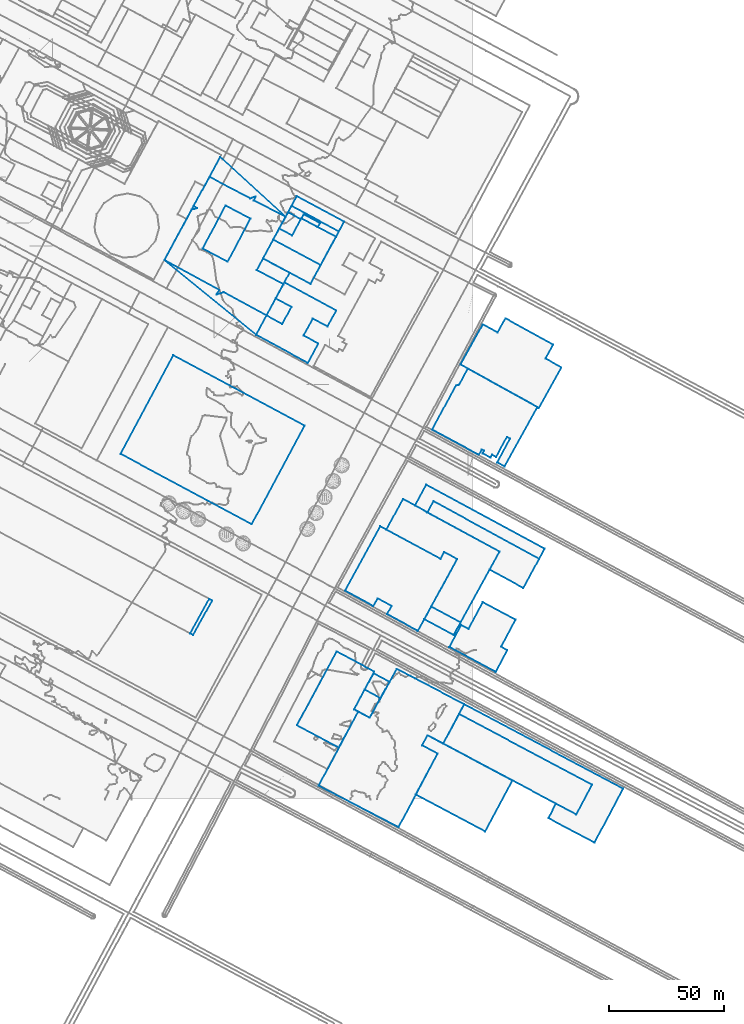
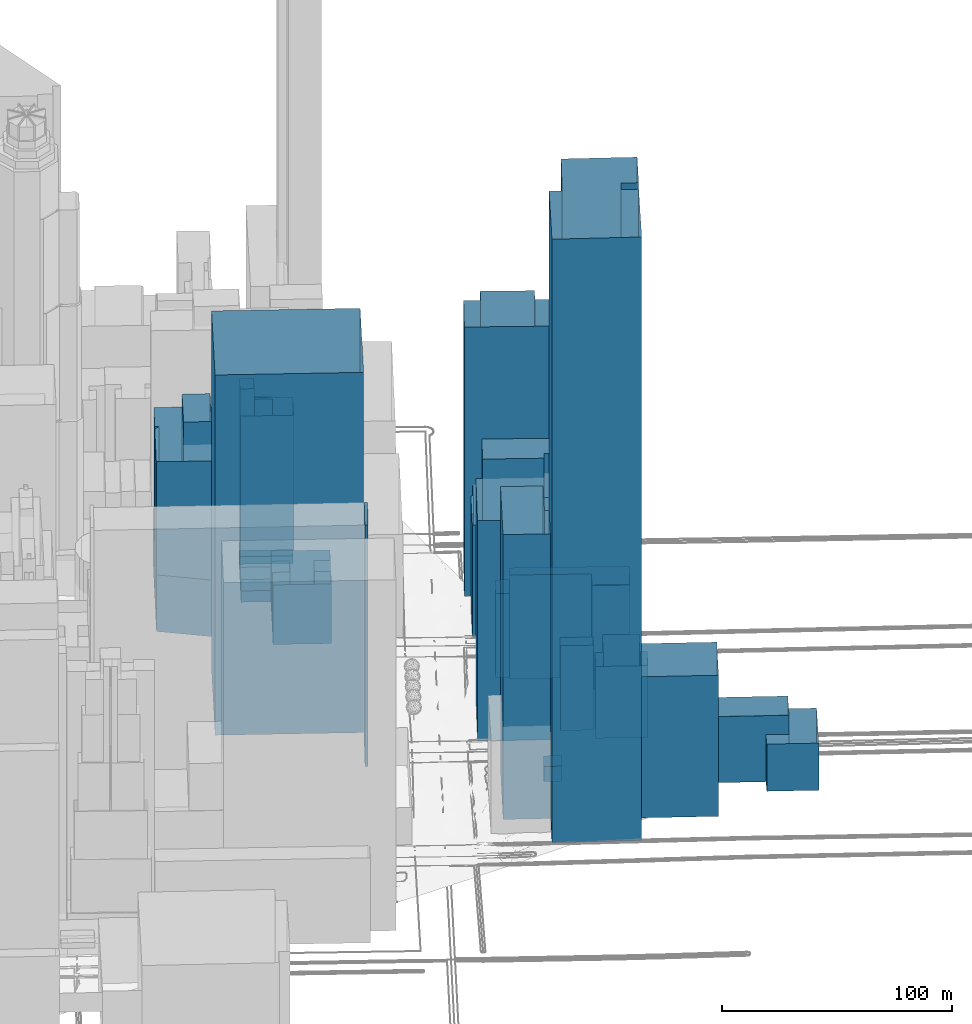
# Not in any storey, part 32 of 80: 28 walls.
"""IFC4 building model written with IfcOpenShell, lengths in metres."""

from ifc_helpers import new_model, si_unit, frame, origin_with_axes, place, context, subcontext, project, spatial, polygons, element, save


model = new_model("IFC4")

# Units and contexts
model_context = context("Model", 3, precision=1e-05, world=origin_with_axes())
body_context = subcontext(model_context, "Body", "Model", "MODEL_VIEW")
ifc_project = project(units=[si_unit("AREAUNIT", "SQUARE_METRE"), si_unit("LENGTHUNIT", "METRE")], contexts=[model_context])

# Sites, building
site_1_placement = place(None, origin_with_axes())
site_1 = spatial("IfcSite", under=ifc_project, at=site_1_placement, Name="Topoexport Site")
site_2_placement = place(site_1_placement, origin_with_axes())
site_2 = spatial("IfcSite", under=site_1, at=site_2_placement, Name="TPX_BATIMENTS")
building_1_placement = place(site_2_placement, frame((366.2645429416, 36.6542156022, 20.5453743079), z_axis=(0.0, 0.0, 1.0), x_axis=(1.0, 0.0, 0.0)))
building_1 = spatial("IfcBuilding", under=site_2, at=building_1_placement, Name="Batiment 0", CompositionType="ELEMENT")

# Wall
wall_1_placement = place(None, frame((366.2645429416, 36.6542156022, 20.5453743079), z_axis=(0.0, 0.0, 1.0), x_axis=(1.0, 0.0, 0.0)))
element("IfcWall", 1, at=wall_1_placement, inside=building_1, Name="Mur 0", context=body_context, shape_type="Tessellation", body=[
    polygons([(0.0, 0.0, 0.0), (57.6510256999, -30.6476367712, 0.0), (50.7770092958, -43.4731624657, 0.0), (41.9344578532, -38.7800531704, 0.0), (38.741565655, -45.1344526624, 0.0), (58.6609342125, -55.7269742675, 0.0), (71.0847208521, -32.3451003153, 0.0), (2.2468139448, 4.2339315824, 0.0), (0.0, 0.0, 25.0), (57.6510256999, -30.6476367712, 25.0), (50.7770092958, -43.4731624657, 25.0), (41.9344578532, -38.7800531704, 25.0), (38.741565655, -45.1344526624, 25.0), (58.6609342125, -55.7269742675, 25.0), (71.0847208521, -32.3451003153, 25.0), (2.2468139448, 4.2339315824, 25.0)], [[[10, 9, 2]], [[2, 9, 1]], [[11, 10, 3]], [[3, 10, 2]], [[12, 11, 4]], [[4, 11, 3]], [[13, 12, 5]], [[5, 12, 4]], [[14, 13, 6]], [[6, 13, 5]], [[15, 14, 7]], [[7, 14, 6]], [[9, 16, 1]], [[1, 16, 8]], [[16, 15, 8]], [[8, 15, 7]]]),
])

# Building
building_2_placement = place(site_2_placement, frame((351.223740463, 77.768312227, 19.2455414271), z_axis=(0.0, 0.0, 1.0), x_axis=(1.0, 0.0, 0.0)))
building_2 = spatial("IfcBuilding", under=site_2, at=building_2_placement, Name="Batiment 1", CompositionType="ELEMENT")

# Wall
wall_2_placement = place(None, frame((351.223740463, 77.768312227, 19.2455414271), z_axis=(0.0, 0.0, 1.0), x_axis=(1.0, 0.0, 0.0)))
element("IfcWall", 2, at=wall_2_placement, inside=building_2, Name="Mur 0", context=body_context, shape_type="Tessellation", body=[
    polygons([(0.0, 0.0, 0.0), (12.6918312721, -6.868784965, 0.0), (15.6589919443, -1.4274175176, 0.0), (2.9670376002, 5.4524630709, 0.0), (0.0, 0.0, 45.0), (12.6918312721, -6.868784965, 45.0), (15.6589919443, -1.4274175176, 45.0), (2.9670376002, 5.4524630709, 45.0)], [[[6, 5, 2]], [[2, 5, 1]], [[7, 6, 3]], [[3, 6, 2]], [[5, 8, 1]], [[1, 8, 4]], [[8, 7, 4]], [[4, 7, 3]]]),
])

# Building
building_3_placement = place(site_2_placement, frame((362.0676322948, 65.7598579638, 18.6080020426), z_axis=(0.0, 0.0, 1.0), x_axis=(1.0, 0.0, 0.0)))
building_3 = spatial("IfcBuilding", under=site_2, at=building_3_placement, Name="Batiment 2", CompositionType="ELEMENT")

# Wall
wall_3_placement = place(None, frame((362.0676322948, 65.7598579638, 18.6080020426), z_axis=(0.0, 0.0, 1.0), x_axis=(1.0, 0.0, 0.0)))
element("IfcWall", 3, at=wall_3_placement, inside=building_3, Name="Mur 0", context=body_context, shape_type="Tessellation", body=[
    polygons([(0.0, 0.0, 0.0), (20.0566144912, -10.8019749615, 0.0), (25.0968062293, -1.4284483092, 0.0), (22.3613697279, 0.0495845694, 0.0), (28.6575999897, 11.7470203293, 0.0), (14.5135056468, 19.3648949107, 0.0), (8.2419351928, 7.7232700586, 0.0), (5.0818940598, 9.4184075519, 0.0), (0.0, 0.0, 38.0999984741), (20.0566144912, -10.8019749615, 38.0999984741), (25.0968062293, -1.4284483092, 38.0999984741), (22.3613697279, 0.0495845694, 38.0999984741), (28.6575999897, 11.7470203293, 38.0999984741), (14.5135056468, 19.3648949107, 38.0999984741), (8.2419351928, 7.7232700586, 38.0999984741), (5.0818940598, 9.4184075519, 38.0999984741)], [[[10, 9, 2]], [[2, 9, 1]], [[11, 10, 3]], [[3, 10, 2]], [[12, 11, 4]], [[4, 11, 3]], [[13, 12, 5]], [[5, 12, 4]], [[14, 13, 6]], [[6, 13, 5]], [[15, 14, 7]], [[7, 14, 6]], [[9, 16, 1]], [[1, 16, 8]], [[16, 15, 8]], [[8, 15, 7]]]),
])

# Building
building_4_placement = place(site_2_placement, frame((347.1381641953, 127.0369642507, 18.5508047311), z_axis=(0.0, 0.0, 1.0), x_axis=(1.0, 0.0, 0.0)))
building_4 = spatial("IfcBuilding", under=site_2, at=building_4_placement, Name="Batiment 3", CompositionType="ELEMENT")

# Wall
wall_4_placement = place(None, frame((347.1381641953, 127.0369642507, 18.5508047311), z_axis=(0.0, 0.0, 1.0), x_axis=(1.0, 0.0, 0.0)))
element("IfcWall", 4, at=wall_4_placement, inside=building_4, Name="Mur 0", context=body_context, shape_type="Tessellation", body=[
    polygons([(0.0, 0.0, 0.0), (5.3954967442, -3.0124802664, 0.0), (8.0571999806, 1.8369054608, 0.0), (53.8061372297, -23.131939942, 0.0), (56.1693942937, -18.7523097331, 0.0), (4.9095321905, 8.9945052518, 0.0), (0.0, 0.0, 45.0), (5.3954967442, -3.0124802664, 45.0), (8.0571999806, 1.8369054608, 45.0), (53.8061372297, -23.131939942, 45.0), (56.1693942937, -18.7523097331, 45.0), (4.9095321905, 8.9945052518, 45.0)], [[[8, 7, 2]], [[2, 7, 1]], [[9, 8, 3]], [[3, 8, 2]], [[10, 9, 4]], [[4, 9, 3]], [[11, 10, 5]], [[5, 10, 4]], [[7, 12, 1]], [[1, 12, 6]], [[12, 11, 6]], [[6, 11, 5]]]),
])

# Building
building_5_placement = place(site_2_placement, frame((352.5336609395, 124.0244839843, 18.1637870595), z_axis=(0.0, 0.0, 1.0), x_axis=(1.0, 0.0, 0.0)))
building_5 = spatial("IfcBuilding", under=site_2, at=building_5_placement, Name="Batiment 4", CompositionType="ELEMENT")

# Wall
wall_5_placement = place(None, frame((352.5336609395, 124.0244839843, 18.1637870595), z_axis=(0.0, 0.0, 1.0), x_axis=(1.0, 0.0, 0.0)))
element("IfcWall", 5, at=wall_5_placement, inside=building_5, Name="Mur 0", context=body_context, shape_type="Tessellation", body=[
    polygons([(0.0, 0.0, 0.0), (31.2631371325, -16.9997120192, 0.0), (26.9895697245, -24.7877841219, 0.0), (41.5765562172, -32.7446614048, 0.0), (48.4106404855, -20.1194596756, 0.0), (2.6617032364, 4.8493857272, 0.0), (0.0, 0.0, 55.0), (31.2631371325, -16.9997120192, 55.0), (26.9895697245, -24.7877841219, 55.0), (41.5765562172, -32.7446614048, 55.0), (48.4106404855, -20.1194596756, 55.0), (2.6617032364, 4.8493857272, 55.0)], [[[8, 7, 2]], [[2, 7, 1]], [[9, 8, 3]], [[3, 8, 2]], [[10, 9, 4]], [[4, 9, 3]], [[11, 10, 5]], [[5, 10, 4]], [[7, 12, 1]], [[1, 12, 6]], [[12, 11, 6]], [[6, 11, 5]]]),
])

# Building
building_6_placement = place(site_2_placement, frame((334.7408311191, 116.6007819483, 18.3898649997), z_axis=(0.0, 0.0, 1.0), x_axis=(1.0, 0.0, 0.0)))
building_6 = spatial("IfcBuilding", under=site_2, at=building_6_placement, Name="Batiment 5", CompositionType="ELEMENT")

# Wall
wall_6_placement = place(None, frame((334.7408311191, 116.6007819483, 18.3898649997), z_axis=(0.0, 0.0, 1.0), x_axis=(1.0, 0.0, 0.0)))
element("IfcWall", 6, at=wall_6_placement, inside=building_6, Name="Mur 0", context=body_context, shape_type="Tessellation", body=[
    polygons([(0.0, 0.0, 0.0), (23.4383723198, -12.7055475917, 0.0), (25.0583062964, -9.7334756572, 0.0), (30.6991136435, -12.7874983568, 0.0), (19.4499469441, -33.3800066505, 0.0), (32.1419012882, -40.259887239, 0.0), (49.0559669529, -9.5760099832, 0.0), (7.2237486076, 13.24030801, 0.0), (0.0, 0.0, 127.0), (23.4383723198, -12.7055475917, 127.0), (25.0583062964, -9.7334756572, 127.0), (30.6991136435, -12.7874983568, 127.0), (19.4499469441, -33.3800066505, 127.0), (32.1419012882, -40.259887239, 127.0), (49.0559669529, -9.5760099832, 127.0), (7.2237486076, 13.24030801, 127.0)], [[[10, 9, 2]], [[2, 9, 1]], [[11, 10, 3]], [[3, 10, 2]], [[12, 11, 4]], [[4, 11, 3]], [[13, 12, 5]], [[5, 12, 4]], [[14, 13, 6]], [[6, 13, 5]], [[15, 14, 7]], [[7, 14, 6]], [[9, 16, 1]], [[1, 16, 8]], [[16, 15, 8]], [[8, 15, 7]]]),
])

# Building
building_7_placement = place(site_2_placement, frame((316.8661601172, 90.1024902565, 18.3898649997), z_axis=(0.0, 0.0, 1.0), x_axis=(1.0, 0.0, 0.0)))
building_7 = spatial("IfcBuilding", under=site_2, at=building_7_placement, Name="Batiment 6", CompositionType="ELEMENT")

# Wall
wall_7_placement = place(None, frame((316.8661601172, 90.1024902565, 18.3898649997), z_axis=(0.0, 0.0, 1.0), x_axis=(1.0, 0.0, 0.0)))
element("IfcWall", 7, at=wall_7_placement, inside=building_7, Name="Mur 0", context=body_context, shape_type="Tessellation", body=[
    polygons([(0.0, 0.0, 0.0), (12.2588560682, -6.6629415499, 0.0), (14.07724135, -3.3332932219, 0.0), (20.1343500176, -6.6156371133, 0.0), (18.1999973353, -10.1353758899, 0.0), (31.5123618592, -17.3744372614, 0.0), (48.5737846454, 13.710793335, 0.0), (42.9329772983, 16.7648160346, 0.0), (41.3130433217, 13.7927441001, 0.0), (15.300279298, 27.9227073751, 0.0), (0.0, 0.0, 116.6999969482), (12.2588560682, -6.6629415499, 116.6999969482), (14.07724135, -3.3332932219, 116.6999969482), (20.1343500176, -6.6156371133, 116.6999969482), (18.1999973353, -10.1353758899, 116.6999969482), (31.5123618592, -17.3744372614, 116.6999969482), (48.5737846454, 13.710793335, 116.6999969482), (42.9329772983, 16.7648160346, 116.6999969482), (41.3130433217, 13.7927441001, 116.6999969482), (15.300279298, 27.9227073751, 116.6999969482)], [[[12, 11, 2]], [[2, 11, 1]], [[13, 12, 3]], [[3, 12, 2]], [[14, 13, 4]], [[4, 13, 3]], [[15, 14, 5]], [[5, 14, 4]], [[16, 15, 6]], [[6, 15, 5]], [[17, 16, 7]], [[7, 16, 6]], [[18, 17, 8]], [[8, 17, 7]], [[19, 18, 9]], [[9, 18, 8]], [[11, 20, 1]], [[1, 20, 10]], [[20, 19, 10]], [[10, 19, 9]]]),
])

# Building
building_8_placement = place(site_2_placement, frame((325.3175902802, 47.212952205, 19.8238031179), z_axis=(0.0, 0.0, 1.0), x_axis=(1.0, 0.0, 0.0)))
building_8 = spatial("IfcBuilding", under=site_2, at=building_8_placement, Name="Batiment 7", CompositionType="ELEMENT")

# Wall
wall_8_placement = place(None, frame((325.3175902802, 47.212952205, 19.8238031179), z_axis=(0.0, 0.0, 1.0), x_axis=(1.0, 0.0, 0.0)))
element("IfcWall", 8, at=wall_8_placement, inside=building_8, Name="Mur 0", context=body_context, shape_type="Tessellation", body=[
    polygons([(0.0, 0.0, 0.0), (6.8126112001, -3.6399257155, 0.0), (10.7830119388, 3.3674274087, 0.0), (3.893923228, 7.050867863, 0.0), (0.0, 0.0, 8.0), (6.8126112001, -3.6399257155, 8.0), (10.7830119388, 3.3674274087, 8.0), (3.893923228, 7.050867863, 8.0)], [[[6, 5, 2]], [[2, 5, 1]], [[7, 6, 3]], [[3, 6, 2]], [[5, 8, 1]], [[1, 8, 4]], [[8, 7, 4]], [[4, 7, 3]]]),
])

# Building
building_9_placement = place(site_2_placement, frame((320.7317155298, 38.6885317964, 19.3320157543), z_axis=(0.0, 0.0, 1.0), x_axis=(1.0, 0.0, 0.0)))
building_9 = spatial("IfcBuilding", under=site_2, at=building_9_placement, Name="Batiment 8", CompositionType="ELEMENT")

# Wall
wall_9_placement = place(None, frame((320.7317155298, 38.6885317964, 19.3320157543), z_axis=(0.0, 0.0, 1.0), x_axis=(1.0, 0.0, 0.0)))
element("IfcWall", 9, at=wall_9_placement, inside=building_9, Name="Mur 0", context=body_context, shape_type="Tessellation", body=[
    polygons([(0.0, 0.0, 0.0), (6.8210570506, -3.6398316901, 0.0), (11.3984859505, 4.884494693, 0.0), (4.5858747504, 8.5244204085, 0.0), (0.0, 0.0, 151.0), (6.8210570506, -3.6398316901, 151.0), (11.3984859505, 4.884494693, 151.0), (4.5858747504, 8.5244204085, 151.0)], [[[6, 5, 2]], [[2, 5, 1]], [[7, 6, 3]], [[3, 6, 2]], [[5, 8, 1]], [[1, 8, 4]], [[8, 7, 4]], [[4, 7, 3]]]),
])

# Building
building_10_placement = place(site_2_placement, frame((295.9848400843, 31.8056900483, 19.3320157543), z_axis=(0.0, 0.0, 1.0), x_axis=(1.0, 0.0, 0.0)))
building_10 = spatial("IfcBuilding", under=site_2, at=building_10_placement, Name="Batiment 9", CompositionType="ELEMENT")

# Wall
wall_10_placement = place(None, frame((295.9848400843, 31.8056900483, 19.3320157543), z_axis=(0.0, 0.0, 1.0), x_axis=(1.0, 0.0, 0.0)))
element("IfcWall", 10, at=wall_10_placement, inside=building_10, Name="Mur 0", context=body_context, shape_type="Tessellation", body=[
    polygons([(0.0, 0.0, 0.0), (18.152605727, -9.6807885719, 0.0), (26.5646548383, 5.9159065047, 0.0), (24.7468754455, 6.8828417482, 0.0), (33.5466758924, 23.2501167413, 0.0), (17.2118998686, 31.9639296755, 0.0), (0.0, 0.0, 151.0), (18.152605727, -9.6807885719, 151.0), (26.5646548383, 5.9159065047, 151.0), (24.7468754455, 6.8828417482, 151.0), (33.5466758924, 23.2501167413, 151.0), (17.2118998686, 31.9639296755, 151.0)], [[[8, 7, 2]], [[2, 7, 1]], [[9, 8, 3]], [[3, 8, 2]], [[10, 9, 4]], [[4, 9, 3]], [[11, 10, 5]], [[5, 10, 4]], [[7, 12, 1]], [[1, 12, 6]], [[12, 11, 6]], [[6, 11, 5]]]),
])

# Building
building_11_placement = place(site_2_placement, frame((305.3985923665, 5.5918232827, 19.5472220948), z_axis=(0.0, 0.0, 1.0), x_axis=(1.0, 0.0, 0.0)))
building_11 = spatial("IfcBuilding", under=site_2, at=building_11_placement, Name="Batiment 11", CompositionType="ELEMENT")

# Wall
wall_11_placement = place(None, frame((305.3985923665, 5.5918232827, 19.5472220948), z_axis=(0.0, 0.0, 1.0), x_axis=(1.0, 0.0, 0.0)))
element("IfcWall", 11, at=wall_11_placement, inside=building_11, Name="Mur 0", context=body_context, shape_type="Tessellation", body=[
    polygons([(0.0, 0.0, 0.0), (34.6180123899, -17.9933581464, 0.0), (51.5516846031, 13.93412623, 0.0), (44.841101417, 17.5086047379, 0.0), (47.1626007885, 21.8544235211, 0.0), (53.9919956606, 18.2258198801, 0.0), (63.1127645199, 35.296323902, 0.0), (33.8269836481, 50.6537947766, 0.0), (22.1541802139, 29.4568768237, 0.0), (17.1509025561, 32.1297732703, 0.0), (0.0, 0.0, 320.0), (34.6180123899, -17.9933581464, 320.0), (51.5516846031, 13.93412623, 320.0), (44.841101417, 17.5086047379, 320.0), (47.1626007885, 21.8544235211, 320.0), (53.9919956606, 18.2258198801, 320.0), (63.1127645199, 35.296323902, 320.0), (33.8269836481, 50.6537947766, 320.0), (22.1541802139, 29.4568768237, 320.0), (17.1509025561, 32.1297732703, 320.0)], [[[12, 11, 2]], [[2, 11, 1]], [[13, 12, 3]], [[3, 12, 2]], [[14, 13, 4]], [[4, 13, 3]], [[15, 14, 5]], [[5, 14, 4]], [[16, 15, 6]], [[6, 15, 5]], [[17, 16, 7]], [[7, 16, 6]], [[18, 17, 8]], [[8, 17, 7]], [[19, 18, 9]], [[9, 18, 8]], [[11, 20, 1]], [[1, 20, 10]], [[20, 19, 10]], [[10, 19, 9]]]),
])

# Building
building_12_placement = place(site_2_placement, frame((347.4572556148, 1.796092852, 20.3614833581), z_axis=(0.0, 0.0, 1.0), x_axis=(1.0, 0.0, 0.0)))
building_12 = spatial("IfcBuilding", under=site_2, at=building_12_placement, Name="Batiment 12", CompositionType="ELEMENT")

# Wall
wall_12_placement = place(None, frame((347.4572556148, 1.796092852, 20.3614833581), z_axis=(0.0, 0.0, 1.0), x_axis=(1.0, 0.0, 0.0)))
element("IfcWall", 12, at=wall_12_placement, inside=building_12, Name="Mur 0", context=body_context, shape_type="Tessellation", body=[
    polygons([(0.0, 0.0, 0.0), (30.0699170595, -15.9811361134, 0.0), (41.8928147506, 6.0946882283, 0.0), (5.1039375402, 25.6501539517, 0.0), (2.7824381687, 21.3043351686, 0.0), (9.4930213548, 17.7298566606, 0.0), (0.0, 0.0, 74.8000030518), (30.0699170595, -15.9811361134, 74.8000030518), (41.8928147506, 6.0946882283, 74.8000030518), (5.1039375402, 25.6501539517, 74.8000030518), (2.7824381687, 21.3043351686, 74.8000030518), (9.4930213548, 17.7298566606, 74.8000030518)], [[[8, 7, 2]], [[2, 7, 1]], [[9, 8, 3]], [[3, 8, 2]], [[10, 9, 4]], [[4, 9, 3]], [[11, 10, 5]], [[5, 10, 4]], [[7, 12, 1]], [[1, 12, 6]], [[12, 11, 6]], [[6, 11, 5]]]),
])

# Building
building_13_placement = place(site_2_placement, frame((359.3905880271, 23.8176431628, 20.6359845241), z_axis=(0.0, 0.0, 1.0), x_axis=(1.0, 0.0, 0.0)))
building_13 = spatial("IfcBuilding", under=site_2, at=building_13_placement, Name="Batiment 13", CompositionType="ELEMENT")

# Wall
wall_13_placement = place(None, frame((359.3905880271, 23.8176431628, 20.6359845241), z_axis=(0.0, 0.0, 1.0), x_axis=(1.0, 0.0, 0.0)))
element("IfcWall", 13, at=wall_13_placement, inside=building_13, Name="Mur 0", context=body_context, shape_type="Tessellation", body=[
    polygons([(0.0, 0.0, 0.0), (57.6509642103, -30.6365900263, 0.0), (64.5249806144, -17.8110643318, 0.0), (6.8739549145, 12.8365724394, 0.0), (0.0, 0.0, 35.0), (57.6509642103, -30.6365900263, 35.0), (64.5249806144, -17.8110643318, 35.0), (6.8739549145, 12.8365724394, 35.0)], [[[6, 5, 2]], [[2, 5, 1]], [[7, 6, 3]], [[3, 6, 2]], [[5, 8, 1]], [[1, 8, 4]], [[8, 7, 4]], [[4, 7, 3]]]),
])

# Building
building_14_placement = place(site_2_placement, frame((249.6836035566, 71.5902685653, 39.4467245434), z_axis=(0.0, 0.0, 1.0), x_axis=(1.0, 0.0, 0.0)))
building_14 = spatial("IfcBuilding", under=site_2, at=building_14_placement, Name="Batiment 39", CompositionType="ELEMENT")

# Wall
wall_14_placement = place(None, frame((249.6836035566, 71.5902685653, 39.4467245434), z_axis=(0.0, 0.0, 1.0), x_axis=(1.0, 0.0, 0.0)))
element("IfcWall", 14, at=wall_14_placement, inside=building_14, Name="Mur 0", context=body_context, shape_type="Tessellation", body=[
    polygons([(0.0, 0.0, 0.0), (1.2910926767, -0.6844212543, 0.0), (9.6089023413, 14.3115828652, 0.0), (8.3176822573, 15.0071034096, 0.0), (0.0, 0.0, 128.0), (1.2910926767, -0.6844212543, 128.0), (9.6089023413, 14.3115828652, 128.0), (8.3176822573, 15.0071034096, 128.0)], [[[6, 5, 2]], [[2, 5, 1]], [[7, 6, 3]], [[3, 6, 2]], [[5, 8, 1]], [[1, 8, 4]], [[8, 7, 4]], [[4, 7, 3]]]),
])

# Building
building_15_placement = place(site_2_placement, frame((219.5112298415, 149.4213804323, 19.4237571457), z_axis=(0.0, 0.0, 1.0), x_axis=(1.0, 0.0, 0.0)))
building_15 = spatial("IfcBuilding", under=site_2, at=building_15_placement, Name="Batiment 40", CompositionType="ELEMENT")

# Wall
wall_15_placement = place(None, frame((219.5112298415, 149.4213804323, 19.4237571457), z_axis=(0.0, 0.0, 1.0), x_axis=(1.0, 0.0, 0.0)))
element("IfcWall", 15, at=wall_15_placement, inside=building_15, Name="Mur 0", context=body_context, shape_type="Tessellation", body=[
    polygons([(0.0, 0.0, 0.0), (56.8882083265, -30.5132920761, 0.0), (79.8162954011, 12.2086158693, 0.0), (22.9281798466, 42.7328309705, 0.0), (0.0, 0.0, 191.0), (56.8882083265, -30.5132920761, 191.0), (79.8162954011, 12.2086158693, 191.0), (22.9281798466, 42.7328309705, 191.0)], [[[6, 5, 2]], [[2, 5, 1]], [[7, 6, 3]], [[3, 6, 2]], [[5, 8, 1]], [[1, 8, 4]], [[8, 7, 4]], [[4, 7, 3]]]),
])

# Building
building_16_placement = place(site_2_placement, frame((238.5657352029, 233.4317503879, 16.8303387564), z_axis=(0.0, 0.0, 1.0), x_axis=(1.0, 0.0, 0.0)))
building_16 = spatial("IfcBuilding", under=site_2, at=building_16_placement, Name="Batiment 124", CompositionType="ELEMENT")

# Wall
wall_16_placement = place(None, frame((238.5657352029, 233.4317503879, 16.8303387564), z_axis=(0.0, 0.0, 1.0), x_axis=(1.0, 0.0, 0.0)))
element("IfcWall", 16, at=wall_16_placement, inside=building_16, Name="Mur 0", context=body_context, shape_type="Tessellation", body=[
    polygons([(0.0, 0.0, 0.0), (39.6892356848, -32.423071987, 0.0), (54.2336192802, -5.5639508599, 0.0), (42.7234641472, 0.6192596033, 0.0), (52.5160379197, 18.7078011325, 0.0), (24.1716147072, 44.6569637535, 0.0), (0.0, 0.0, 30.0), (39.6892356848, -32.423071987, 30.0), (54.2336192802, -5.5639508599, 30.0), (42.7234641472, 0.6192596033, 30.0), (52.5160379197, 18.7078011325, 30.0), (24.1716147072, 44.6569637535, 30.0)], [[[8, 7, 2]], [[2, 7, 1]], [[9, 8, 3]], [[3, 8, 2]], [[10, 9, 4]], [[4, 9, 3]], [[11, 10, 5]], [[5, 10, 4]], [[7, 12, 1]], [[1, 12, 6]], [[12, 11, 6]], [[6, 11, 5]]]),
])

# Building
building_17_placement = place(site_2_placement, frame((238.5657352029, 233.4317503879, 16.8288003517), z_axis=(0.0, 0.0, 1.0), x_axis=(1.0, 0.0, 0.0)))
building_17 = spatial("IfcBuilding", under=site_2, at=building_17_placement, Name="Batiment 125", CompositionType="ELEMENT")

# Wall
wall_17_placement = place(None, frame((238.5657352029, 233.4317503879, 16.8288003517), z_axis=(0.0, 0.0, 1.0), x_axis=(1.0, 0.0, 0.0)))
element("IfcWall", 17, at=wall_17_placement, inside=building_17, Name="Mur 0", context=body_context, shape_type="Tessellation", body=[
    polygons([(0.0, 0.0, 0.0), (23.8036133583, -12.9458392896, 0.0), (22.5444502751, -15.0033068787, 0.0), (25.6386092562, -13.9458941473, 0.0), (44.2262175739, -24.0546749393, 0.0), (51.6324175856, -10.5347354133, 0.0), (40.0549929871, -4.3745082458, 0.0), (52.5160379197, 18.7078011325, 0.0), (38.7491765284, 25.8639517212, 0.0), (39.5570742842, 27.5275912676, 0.0), (37.0929847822, 26.7328570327, 0.0), (19.5537404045, 35.9878752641, 0.0), (12.610114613, 23.3393253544, 0.0), (14.2581221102, 22.4481148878, 0.0), (11.841957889, 21.887094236, 0.0), (0.0, 0.0, 90.0), (23.8036133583, -12.9458392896, 90.0), (22.5444502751, -15.0033068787, 90.0), (25.6386092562, -13.9458941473, 90.0), (44.2262175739, -24.0546749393, 90.0), (51.6324175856, -10.5347354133, 90.0), (40.0549929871, -4.3745082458, 90.0), (52.5160379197, 18.7078011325, 90.0), (38.7491765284, 25.8639517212, 90.0), (39.5570742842, 27.5275912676, 90.0), (37.0929847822, 26.7328570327, 90.0), (19.5537404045, 35.9878752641, 90.0), (12.610114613, 23.3393253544, 90.0), (14.2581221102, 22.4481148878, 90.0), (11.841957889, 21.887094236, 90.0)], [[[17, 16, 2]], [[2, 16, 1]], [[18, 17, 3]], [[3, 17, 2]], [[19, 18, 4]], [[4, 18, 3]], [[20, 19, 5]], [[5, 19, 4]], [[21, 20, 6]], [[6, 20, 5]], [[22, 21, 7]], [[7, 21, 6]], [[23, 22, 8]], [[8, 22, 7]], [[24, 23, 9]], [[9, 23, 8]], [[25, 24, 10]], [[10, 24, 9]], [[26, 25, 11]], [[11, 25, 10]], [[27, 26, 12]], [[12, 26, 11]], [[28, 27, 13]], [[13, 27, 12]], [[29, 28, 14]], [[14, 28, 13]], [[16, 30, 1]], [[1, 30, 15]], [[30, 29, 15]], [[15, 29, 14]]]),
])

# Building
building_18_placement = place(site_2_placement, frame((255.1464477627, 238.3653204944, 18.4349327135), z_axis=(0.0, 0.0, 1.0), x_axis=(1.0, 0.0, 0.0)))
building_18 = spatial("IfcBuilding", under=site_2, at=building_18_placement, Name="Batiment 126", CompositionType="ELEMENT")

# Wall
wall_18_placement = place(None, frame((255.1464477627, 238.3653204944, 18.4349327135), z_axis=(0.0, 0.0, 1.0), x_axis=(1.0, 0.0, 0.0)))
element("IfcWall", 18, at=wall_18_placement, inside=building_18, Name="Mur 0", context=body_context, shape_type="Tessellation", body=[
    polygons([(0.0, 0.0, 0.0), (10.8206467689, -5.6916724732, 0.0), (20.6914610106, 12.9306667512, 0.0), (9.8708329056, 18.6223246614, 0.0), (0.0, 0.0, 100.5999984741), (10.8206467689, -5.6916724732, 100.5999984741), (20.6914610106, 12.9306667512, 100.5999984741), (9.8708329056, 18.6223246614, 100.5999984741)], [[[6, 5, 2]], [[2, 5, 1]], [[7, 6, 3]], [[3, 6, 2]], [[5, 8, 1]], [[1, 8, 4]], [[8, 7, 4]], [[4, 7, 3]]]),
])

# Building
building_19_placement = place(site_2_placement, frame((281.2891993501, 234.0510099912, 16.9743140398), z_axis=(0.0, 0.0, 1.0), x_axis=(1.0, 0.0, 0.0)))
building_19 = spatial("IfcBuilding", under=site_2, at=building_19_placement, Name="Batiment 127", CompositionType="ELEMENT")

# Wall
wall_19_placement = place(None, frame((281.2891993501, 234.0510099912, 16.9743140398), z_axis=(0.0, 0.0, 1.0), x_axis=(1.0, 0.0, 0.0)))
element("IfcWall", 19, at=wall_19_placement, inside=building_19, Name="Mur 0", context=body_context, shape_type="Tessellation", body=[
    polygons([(0.0, 0.0, 0.0), (20.548297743, -11.0296043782, 0.0), (24.9775825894, -2.8400815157, 0.0), (4.43774046, 8.1896087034, 0.0), (0.0, 0.0, 12.0), (20.548297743, -11.0296043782, 12.0), (24.9775825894, -2.8400815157, 12.0), (4.43774046, 8.1896087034, 12.0)], [[[6, 5, 2]], [[2, 5, 1]], [[7, 6, 3]], [[3, 6, 2]], [[5, 8, 1]], [[1, 8, 4]], [[8, 7, 4]], [[4, 7, 3]]]),
])

# Building
building_20_placement = place(site_2_placement, frame((288.3298169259, 247.0670920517, 18.7313016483), z_axis=(0.0, 0.0, 1.0), x_axis=(1.0, 0.0, 0.0)))
building_20 = spatial("IfcBuilding", under=site_2, at=building_20_placement, Name="Batiment 128", CompositionType="ELEMENT")

# Wall
wall_20_placement = place(None, frame((288.3298169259, 247.0670920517, 18.7313016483), z_axis=(0.0, 0.0, 1.0), x_axis=(1.0, 0.0, 0.0)))
element("IfcWall", 20, at=wall_20_placement, inside=building_20, Name="Mur 0", context=body_context, shape_type="Tessellation", body=[
    polygons([(0.0, 0.0, 0.0), (5.5893839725, -2.9991613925, 0.0), (9.3741480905, 3.9949121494, 0.0), (3.7847676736, 6.9940706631, 0.0), (0.0, 0.0, 101.0), (5.5893839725, -2.9991613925, 101.0), (9.3741480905, 3.9949121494, 101.0), (3.7847676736, 6.9940706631, 101.0)], [[[6, 5, 2]], [[2, 5, 1]], [[7, 6, 3]], [[3, 6, 2]], [[5, 8, 1]], [[1, 8, 4]], [[8, 7, 4]], [[4, 7, 3]]]),
])

# Building
building_21_placement = place(site_2_placement, frame((297.9268132, 251.4975866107, 44.1625825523), z_axis=(0.0, 0.0, 1.0), x_axis=(1.0, 0.0, 0.0)))
building_21 = spatial("IfcBuilding", under=site_2, at=building_21_placement, Name="Batiment 138", CompositionType="ELEMENT")

# Wall
wall_21_placement = place(None, frame((297.9268132, 251.4975866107, 44.1625825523), z_axis=(0.0, 0.0, 1.0), x_axis=(1.0, 0.0, 0.0)))
element("IfcWall", 21, at=wall_21_placement, inside=building_21, Name="Mur 0", context=body_context, shape_type="Tessellation", body=[
    polygons([(0.0, 0.0, 0.0), (7.1354708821, -3.8360285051, 0.0), (8.0608818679, -2.115506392, 0.0), (0.933852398, 1.7206194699, 0.0), (0.0, 0.0, 64.0), (7.1354708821, -3.8360285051, 64.0), (8.0608818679, -2.115506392, 64.0), (0.933852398, 1.7206194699, 64.0)], [[[6, 5, 2]], [[2, 5, 1]], [[7, 6, 3]], [[3, 6, 2]], [[5, 8, 1]], [[1, 8, 4]], [[8, 7, 4]], [[4, 7, 3]]]),
])

# Building
building_22_placement = place(site_2_placement, frame((293.6269824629, 256.8432308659, 18.9579737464), z_axis=(0.0, 0.0, 1.0), x_axis=(1.0, 0.0, 0.0)))
building_22 = spatial("IfcBuilding", under=site_2, at=building_22_placement, Name="Batiment 139", CompositionType="ELEMENT")

# Wall
wall_22_placement = place(None, frame((293.6269824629, 256.8432308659, 18.9579737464), z_axis=(0.0, 0.0, 1.0), x_axis=(1.0, 0.0, 0.0)))
element("IfcWall", 22, at=wall_22_placement, inside=building_22, Name="Mur 0", context=body_context, shape_type="Tessellation", body=[
    polygons([(0.0, 0.0, 0.0), (20.5398148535, -11.0296681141, 0.0), (22.8372318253, -6.7951607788, 0.0), (2.2972956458, 4.2456016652, 0.0), (0.0, 0.0, 4.0), (20.5398148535, -11.0296681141, 4.0), (22.8372318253, -6.7951607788, 4.0), (2.2972956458, 4.2456016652, 4.0)], [[[6, 5, 2]], [[2, 5, 1]], [[7, 6, 3]], [[3, 6, 2]], [[5, 8, 1]], [[1, 8, 4]], [[8, 7, 4]], [[4, 7, 3]]]),
])

# Building
building_23_placement = place(site_2_placement, frame((292.1145845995, 254.0611627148, 18.8063007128), z_axis=(0.0, 0.0, 1.0), x_axis=(1.0, 0.0, 0.0)))
building_23 = spatial("IfcBuilding", under=site_2, at=building_23_placement, Name="Batiment 140", CompositionType="ELEMENT")

# Wall
wall_23_placement = place(None, frame((292.1145845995, 254.0611627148, 18.8063007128), z_axis=(0.0, 0.0, 1.0), x_axis=(1.0, 0.0, 0.0)))
element("IfcWall", 23, at=wall_23_placement, inside=building_23, Name="Mur 0", context=body_context, shape_type="Tessellation", body=[
    polygons([(0.0, 0.0, 0.0), (5.5893804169, -2.9991585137, 0.0), (5.8122286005, -2.5635761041, 0.0), (20.7796774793, -10.6049936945, 0.0), (22.0522127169, -8.2475999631, 0.0), (1.5123978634, 2.782068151, 0.0), (0.0, 0.0, 12.0), (5.5893804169, -2.9991585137, 12.0), (5.8122286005, -2.5635761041, 12.0), (20.7796774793, -10.6049936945, 12.0), (22.0522127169, -8.2475999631, 12.0), (1.5123978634, 2.782068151, 12.0)], [[[8, 7, 2]], [[2, 7, 1]], [[9, 8, 3]], [[3, 8, 2]], [[10, 9, 4]], [[4, 9, 3]], [[11, 10, 5]], [[5, 10, 4]], [[7, 12, 1]], [[1, 12, 6]], [[12, 11, 6]], [[6, 11, 5]]]),
])

# Building
building_24_placement = place(site_2_placement, frame((285.7269398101, 242.2406186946, 17.7274277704), z_axis=(0.0, 0.0, 1.0), x_axis=(1.0, 0.0, 0.0)))
building_24 = spatial("IfcBuilding", under=site_2, at=building_24_placement, Name="Batiment 141", CompositionType="ELEMENT")

# Wall
wall_24_placement = place(None, frame((285.7269398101, 242.2406186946, 17.7274277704), z_axis=(0.0, 0.0, 1.0), x_axis=(1.0, 0.0, 0.0)))
element("IfcWall", 24, at=wall_24_placement, inside=building_24, Name="Mur 0", context=body_context, shape_type="Tessellation", body=[
    polygons([(0.0, 0.0, 0.0), (20.5398421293, -11.0296902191, 0.0), (27.1673222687, 1.2155503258, 0.0), (12.1998733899, 9.2569679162, 0.0), (8.1922610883, 1.8273119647, 0.0), (2.6028771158, 4.8264733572, 0.0), (0.0, 0.0, 91.4000015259), (20.5398421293, -11.0296902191, 91.4000015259), (27.1673222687, 1.2155503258, 91.4000015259), (12.1998733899, 9.2569679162, 91.4000015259), (8.1922610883, 1.8273119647, 91.4000015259), (2.6028771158, 4.8264733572, 91.4000015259)], [[[8, 7, 2]], [[2, 7, 1]], [[9, 8, 3]], [[3, 8, 2]], [[10, 9, 4]], [[4, 9, 3]], [[11, 10, 5]], [[5, 10, 4]], [[7, 12, 1]], [[1, 12, 6]], [[12, 11, 6]], [[6, 11, 5]]]),
])

# Building
building_25_placement = place(site_2_placement, frame((281.2891993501, 234.0510099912, 16.9743140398), z_axis=(0.0, 0.0, 1.0), x_axis=(1.0, 0.0, 0.0)))
building_25 = spatial("IfcBuilding", under=site_2, at=building_25_placement, Name="Batiment 142", CompositionType="ELEMENT")

# Wall
wall_25_placement = place(None, frame((281.2891993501, 234.0510099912, 16.9743140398), z_axis=(0.0, 0.0, 1.0), x_axis=(1.0, 0.0, 0.0)))
element("IfcWall", 25, at=wall_25_placement, inside=building_25, Name="Mur 0", context=body_context, shape_type="Tessellation", body=[
    polygons([(0.0, 0.0, 0.0), (20.548297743, -11.0296043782, 0.0), (35.1750149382, 15.9970600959, 0.0), (14.6350787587, 27.0378225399, 0.0), (0.0, 0.0, 6.0), (20.548297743, -11.0296043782, 6.0), (35.1750149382, 15.9970600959, 6.0), (14.6350787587, 27.0378225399, 6.0)], [[[6, 5, 2]], [[2, 5, 1]], [[7, 6, 3]], [[3, 6, 2]], [[5, 8, 1]], [[1, 8, 4]], [[8, 7, 4]], [[4, 7, 3]]]),
])

# Building
building_26_placement = place(site_2_placement, frame((278.2549708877, 201.0086784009, 15.6757471), z_axis=(0.0, 0.0, 1.0), x_axis=(1.0, 0.0, 0.0)))
building_26 = spatial("IfcBuilding", under=site_2, at=building_26_placement, Name="Batiment 144", CompositionType="ELEMENT")

# Wall
wall_26_placement = place(None, frame((278.2549708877, 201.0086784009, 15.6757471), z_axis=(0.0, 0.0, 1.0), x_axis=(1.0, 0.0, 0.0)))
element("IfcWall", 26, at=wall_26_placement, inside=building_26, Name="Mur 0", context=body_context, shape_type="Tessellation", body=[
    polygons([(0.0, 0.0, 0.0), (22.4777859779, -12.1617877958, 0.0), (27.0063104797, -3.7934751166, 0.0), (20.6180660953, -0.3373262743, 0.0), (24.609593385, 7.0255305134, 0.0), (30.9978335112, 3.5693851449, 0.0), (34.7826050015, 10.5634660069, 0.0), (12.3131764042, 22.7364151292, 0.0), (8.5200795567, 15.7311468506, 0.0), (15.3500450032, 12.0358801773, 0.0), (11.3669518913, 4.6731266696, 0.0), (4.536981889, 8.3683970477, 0.0), (0.0, 0.0, 31.6000003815), (22.4777859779, -12.1617877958, 31.6000003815), (27.0063104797, -3.7934751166, 31.6000003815), (20.6180660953, -0.3373262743, 31.6000003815), (24.609593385, 7.0255305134, 31.6000003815), (30.9978335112, 3.5693851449, 31.6000003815), (34.7826050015, 10.5634660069, 31.6000003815), (12.3131764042, 22.7364151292, 31.6000003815), (8.5200795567, 15.7311468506, 31.6000003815), (15.3500450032, 12.0358801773, 31.6000003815), (11.3669518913, 4.6731266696, 31.6000003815), (4.536981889, 8.3683970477, 31.6000003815)], [[[14, 13, 2]], [[2, 13, 1]], [[15, 14, 3]], [[3, 14, 2]], [[16, 15, 4]], [[4, 15, 3]], [[17, 16, 5]], [[5, 16, 4]], [[18, 17, 6]], [[6, 17, 5]], [[19, 18, 7]], [[7, 18, 6]], [[20, 19, 8]], [[8, 19, 7]], [[21, 20, 9]], [[9, 20, 8]], [[22, 21, 10]], [[10, 21, 9]], [[23, 22, 11]], [[11, 22, 10]], [[13, 24, 1]], [[1, 24, 12]], [[24, 23, 12]], [[12, 23, 11]]]),
])

# Building
building_27_placement = place(site_2_placement, frame((354.5806057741, 159.9086306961, 17.7443665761), z_axis=(0.0, 0.0, 1.0), x_axis=(1.0, 0.0, 0.0)))
building_27 = spatial("IfcBuilding", under=site_2, at=building_27_placement, Name="Batiment 146", CompositionType="ELEMENT")

# Wall
wall_27_placement = place(None, frame((354.5806057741, 159.9086306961, 17.7443665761), z_axis=(0.0, 0.0, 1.0), x_axis=(1.0, 0.0, 0.0)))
element("IfcWall", 27, at=wall_27_placement, inside=building_27, Name="Mur 0", context=body_context, shape_type="Tessellation", body=[
    polygons([(0.0, 0.0, 0.0), (20.2430773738, -10.8886351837, 0.0), (21.4989884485, -8.5536292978, 0.0), (22.5353152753, -9.1077698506, 0.0), (21.8992428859, -10.3031231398, 0.0), (25.339599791, -12.150421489, 0.0), (26.0172271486, -10.8990723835, 0.0), (27.7331858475, -11.8227699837, 0.0), (32.40982227, -3.1307145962, 0.0), (33.7605140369, -3.8588264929, 0.0), (28.183275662, -14.2267162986, 0.0), (31.3347213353, -15.9108444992, 0.0), (45.6136333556, 9.8018659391, 0.0), (15.4436623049, 26.458968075, 0.0), (11.6676290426, 19.4427545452, 0.0), (10.3118314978, 19.1605049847, 0.0), (0.0, 0.0, 59.5), (20.2430773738, -10.8886351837, 59.5), (21.4989884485, -8.5536292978, 59.5), (22.5353152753, -9.1077698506, 59.5), (21.8992428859, -10.3031231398, 59.5), (25.339599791, -12.150421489, 59.5), (26.0172271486, -10.8990723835, 59.5), (27.7331858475, -11.8227699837, 59.5), (32.40982227, -3.1307145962, 59.5), (33.7605140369, -3.8588264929, 59.5), (28.183275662, -14.2267162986, 59.5), (31.3347213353, -15.9108444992, 59.5), (45.6136333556, 9.8018659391, 59.5), (15.4436623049, 26.458968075, 59.5), (11.6676290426, 19.4427545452, 59.5), (10.3118314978, 19.1605049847, 59.5)], [[[18, 17, 2]], [[2, 17, 1]], [[19, 18, 3]], [[3, 18, 2]], [[20, 19, 4]], [[4, 19, 3]], [[21, 20, 5]], [[5, 20, 4]], [[22, 21, 6]], [[6, 21, 5]], [[23, 22, 7]], [[7, 22, 6]], [[24, 23, 8]], [[8, 23, 7]], [[25, 24, 9]], [[9, 24, 8]], [[26, 25, 10]], [[10, 25, 9]], [[27, 26, 11]], [[11, 26, 10]], [[28, 27, 12]], [[12, 27, 11]], [[29, 28, 13]], [[13, 28, 12]], [[30, 29, 14]], [[14, 29, 13]], [[31, 30, 15]], [[15, 30, 14]], [[17, 32, 1]], [[1, 32, 16]], [[32, 31, 16]], [[16, 31, 15]]]),
])

# Building
building_28_placement = place(site_2_placement, frame((366.8637568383, 188.1071389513, 17.7938249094), z_axis=(0.0, 0.0, 1.0), x_axis=(1.0, 0.0, 0.0)))
building_28 = spatial("IfcBuilding", under=site_2, at=building_28_placement, Name="Batiment 147", CompositionType="ELEMENT")

# Wall
wall_28_placement = place(None, frame((366.8637568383, 188.1071389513, 17.7938249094), z_axis=(0.0, 0.0, 1.0), x_axis=(1.0, 0.0, 0.0)))
element("IfcWall", 28, at=wall_28_placement, inside=building_28, Name="Mur 0", context=body_context, shape_type="Tessellation", body=[
    polygons([(0.0, 0.0, 0.0), (33.9506416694, -18.7335846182, 0.0), (43.7072874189, -1.2004133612, 0.0), (36.8338707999, 2.5941615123, 0.0), (40.1741687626, 8.6061127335, 0.0), (19.4860618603, 20.0223811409, 0.0), (16.0878345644, 13.9098440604, 0.0), (9.6986507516, 17.4436317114, 0.0), (0.0, 0.0, 143.0), (33.9506416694, -18.7335846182, 143.0), (43.7072874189, -1.2004133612, 143.0), (36.8338707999, 2.5941615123, 143.0), (40.1741687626, 8.6061127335, 143.0), (19.4860618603, 20.0223811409, 143.0), (16.0878345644, 13.9098440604, 143.0), (9.6986507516, 17.4436317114, 143.0)], [[[10, 9, 2]], [[2, 9, 1]], [[11, 10, 3]], [[3, 10, 2]], [[12, 11, 4]], [[4, 11, 3]], [[13, 12, 5]], [[5, 12, 4]], [[14, 13, 6]], [[6, 13, 5]], [[15, 14, 7]], [[7, 14, 6]], [[9, 16, 1]], [[1, 16, 8]], [[16, 15, 8]], [[8, 15, 7]]]),
])

save(model, "model.ifc")
